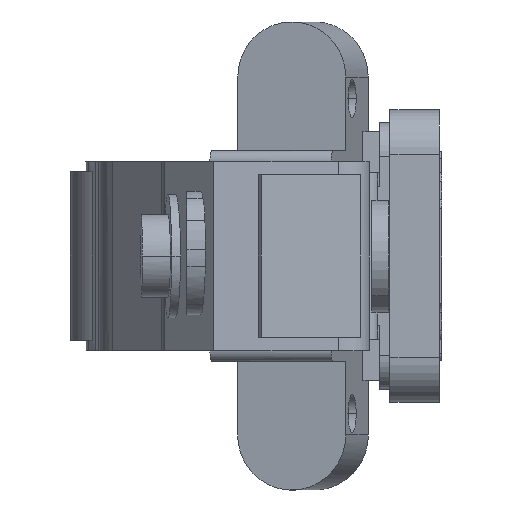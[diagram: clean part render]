
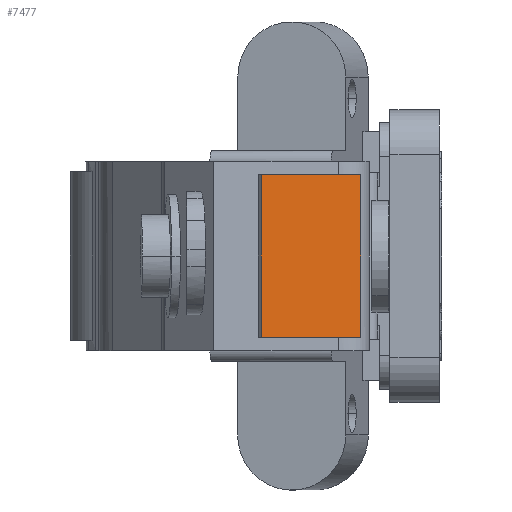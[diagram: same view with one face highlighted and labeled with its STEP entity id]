
A CAD part, left-side view. The second image highlights one B-rep face of the part: STEP entity #7477.
In plain terms, the highlighted planar face has unit normal (-0.991, -0.131, 0).
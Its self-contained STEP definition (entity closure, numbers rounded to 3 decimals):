
#216 = EDGE_CURVE ( 'NONE', #1495, #7665, #925, .T. ) ;
#262 = EDGE_CURVE ( 'NONE', #7665, #1607, #5695, .T. ) ;
#570 = AXIS2_PLACEMENT_3D ( 'NONE', #6002, #733, #7625 ) ;
#701 = CARTESIAN_POINT ( 'NONE',  ( -16.572, 14.054, 7.2 ) ) ;
#733 = DIRECTION ( 'NONE',  ( 0.991, 0.131, 0. ) ) ;
#904 = CARTESIAN_POINT ( 'NONE',  ( -15.401, 5.171, -7.2 ) ) ;
#925 = B_SPLINE_CURVE_WITH_KNOTS ( 'NONE', 3,
 ( #7160, #6580, #5193, #2199 ),
 .UNSPECIFIED., .F., .F.,
 ( 4, 4 ),
 ( 0., 1. ),
 .UNSPECIFIED. ) ;
#1048 = ORIENTED_EDGE ( 'NONE', *, *, #262, .F. ) ;
#1495 = VERTEX_POINT ( 'NONE', #7419 ) ;
#1514 = CARTESIAN_POINT ( 'NONE',  ( -15.401, 5.171, -7.2 ) ) ;
#1607 = VERTEX_POINT ( 'NONE', #5264 ) ;
#1610 = CARTESIAN_POINT ( 'NONE',  ( -16.182, 11.093, 7.2 ) ) ;
#2189 = CARTESIAN_POINT ( 'NONE',  ( -16.572, 14.054, -2.4 ) ) ;
#2199 = CARTESIAN_POINT ( 'NONE',  ( -15.401, 5.171, -7.2 ) ) ;
#2473 = ORIENTED_EDGE ( 'NONE', *, *, #216, .F. ) ;
#2597 = CARTESIAN_POINT ( 'NONE',  ( -15.791, 8.132, 7.2 ) ) ;
#2609 = VERTEX_POINT ( 'NONE', #4677 ) ;
#2649 = PLANE ( 'NONE',  #570 ) ;
#2944 = ORIENTED_EDGE ( 'NONE', *, *, #7770, .T. ) ;
#3081 = EDGE_LOOP ( 'NONE', ( #2944, #1048, #2473, #4235 ) ) ;
#3134 = CARTESIAN_POINT ( 'NONE',  ( -15.401, 5.171, 7.2 ) ) ;
#3215 = B_SPLINE_CURVE_WITH_KNOTS ( 'NONE', 3,
 ( #4422, #1610, #2597, #3134 ),
 .UNSPECIFIED., .F., .F.,
 ( 4, 4 ),
 ( 0., 1. ),
 .UNSPECIFIED. ) ;
#3406 = FACE_OUTER_BOUND ( 'NONE', #3081, .T. ) ;
#3542 = CARTESIAN_POINT ( 'NONE',  ( -16.572, 14.054, -7.2 ) ) ;
#4235 = ORIENTED_EDGE ( 'NONE', *, *, #7092, .F. ) ;
#4380 = B_SPLINE_CURVE_WITH_KNOTS ( 'NONE', 3,
 ( #701, #6558, #2189, #3542 ),
 .UNSPECIFIED., .F., .F.,
 ( 4, 4 ),
 ( 0., 1. ),
 .UNSPECIFIED. ) ;
#4422 = CARTESIAN_POINT ( 'NONE',  ( -16.572, 14.054, 7.2 ) ) ;
#4494 = CARTESIAN_POINT ( 'NONE',  ( -15.791, 8.132, -7.2 ) ) ;
#4677 = CARTESIAN_POINT ( 'NONE',  ( -16.572, 14.054, 7.2 ) ) ;
#5193 = CARTESIAN_POINT ( 'NONE',  ( -15.401, 5.171, -2.4 ) ) ;
#5264 = CARTESIAN_POINT ( 'NONE',  ( -16.572, 14.054, -7.2 ) ) ;
#5305 = CARTESIAN_POINT ( 'NONE',  ( -16.572, 14.054, -7.2 ) ) ;
#5695 = B_SPLINE_CURVE_WITH_KNOTS ( 'NONE', 3,
 ( #904, #4494, #7710, #5305 ),
 .UNSPECIFIED., .F., .F.,
 ( 4, 4 ),
 ( 0., 1. ),
 .UNSPECIFIED. ) ;
#6002 = CARTESIAN_POINT ( 'NONE',  ( -16.572, 14.054, 7.2 ) ) ;
#6558 = CARTESIAN_POINT ( 'NONE',  ( -16.572, 14.054, 2.4 ) ) ;
#6580 = CARTESIAN_POINT ( 'NONE',  ( -15.401, 5.171, 2.4 ) ) ;
#7092 = EDGE_CURVE ( 'NONE', #2609, #1495, #3215, .T. ) ;
#7160 = CARTESIAN_POINT ( 'NONE',  ( -15.401, 5.171, 7.2 ) ) ;
#7419 = CARTESIAN_POINT ( 'NONE',  ( -15.401, 5.171, 7.2 ) ) ;
#7477 = ADVANCED_FACE ( 'NONE', ( #3406 ), #2649, .F. ) ;
#7625 = DIRECTION ( 'NONE',  ( 0., 0., -1. ) ) ;
#7665 = VERTEX_POINT ( 'NONE', #1514 ) ;
#7710 = CARTESIAN_POINT ( 'NONE',  ( -16.182, 11.093, -7.2 ) ) ;
#7770 = EDGE_CURVE ( 'NONE', #2609, #1607, #4380, .T. ) ;
